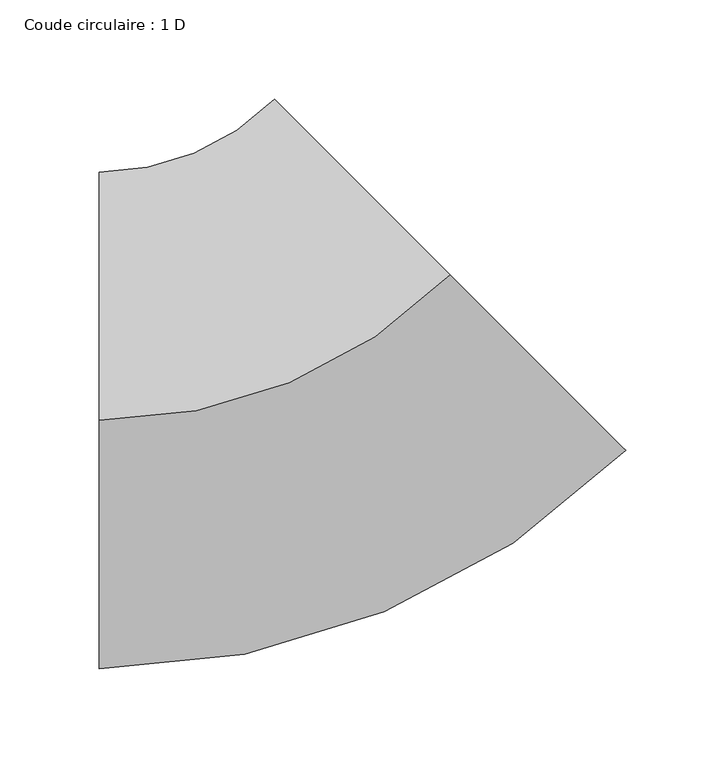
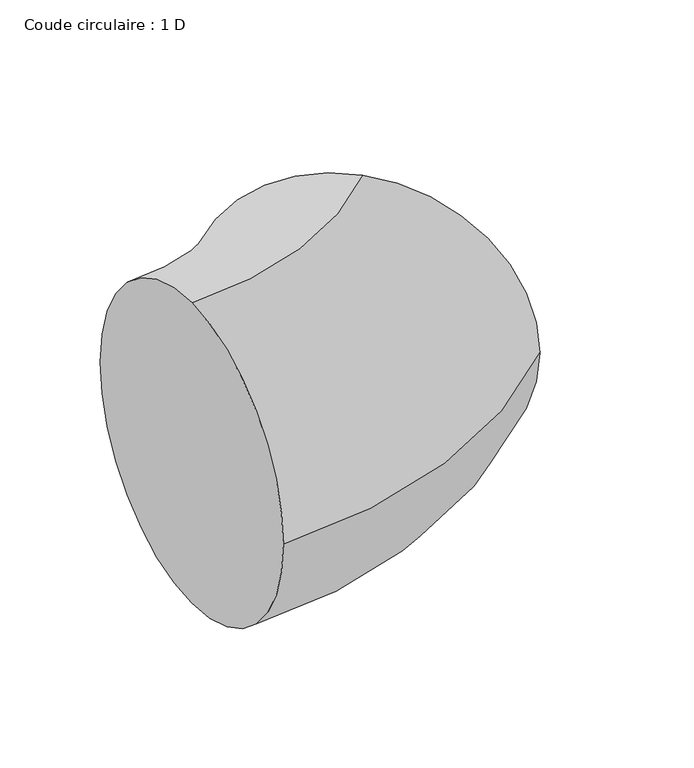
"""IFC4 building model written with IfcOpenShell, lengths in millimetres: duct fitting geometry, Coude circulaire : 1 D."""

from ifc_helpers import new_model, si_unit, point, frame, origin, place, context, project, spatial, circle_curve, ellipse_curve, trimmed, source, transform, mapped, element, save
from ifc_brep_helpers import plane_surface, revolved_surface, advanced_brep


def coude_circulaire_1_d_f93f4f67(model_context):
    return source(origin(), model_context, "Body", "AdvancedBrep", [
        advanced_brep(
        [(-103.5533835, 0.0, 125.0), (-103.5533835, 125.0, 0.0), (-103.5533835, 0.0, -125.0), (-103.5533835, -125.0, 0.0), (73.2233032, 73.2232961, 125.0), (161.6116466, -15.1650559, 0.0), (73.2233032, 73.2232961, -125.0), (-15.1650401, 161.611648, 0.0)],
        [
            (0, 1, circle_curve(frame((-103.5533835, 0.0, 0.0), z_axis=(-1.0, 0.0, 0.0), x_axis=(0.0, 1.0, 0.0)), 125.0)),
            (1, 2, circle_curve(frame((-103.5533835, 0.0, 0.0), z_axis=(-1.0, 0.0, 0.0), x_axis=(0.0, 1.0, 0.0)), 125.0)),
            (2, 3, circle_curve(frame((-103.5533835, 0.0, 0.0), z_axis=(-1.0, 0.0, 0.0), x_axis=(0.0, 1.0, 0.0)), 125.0)),
            (3, 0, circle_curve(frame((-103.5533835, 0.0, 0.0), z_axis=(-1.0, 0.0, 0.0), x_axis=(0.0, 1.0, 0.0)), 125.0)),
            (4, 5, circle_curve(frame((73.2233032, 73.2232961, 0.0), z_axis=(0.7071068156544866, 0.7071067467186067, 0.0), x_axis=(-0.7071067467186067, 0.7071068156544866, 0.0)), 125.0)),
            (5, 6, circle_curve(frame((73.2233032, 73.2232961, 0.0), z_axis=(0.7071068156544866, 0.7071067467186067, 0.0), x_axis=(-0.7071067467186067, 0.7071068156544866, 0.0)), 125.0)),
            (6, 7, circle_curve(frame((73.2233032, 73.2232961, 0.0), z_axis=(0.7071068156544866, 0.7071067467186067, 0.0), x_axis=(-0.7071067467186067, 0.7071068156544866, 0.0)), 125.0)),
            (7, 4, circle_curve(frame((73.2233032, 73.2232961, 0.0), z_axis=(0.7071068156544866, 0.7071067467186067, 0.0), x_axis=(-0.7071067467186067, 0.7071068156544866, 0.0)), 125.0)),
            (7, 1, circle_curve(frame((-103.5533835, 250.0, 0.0), z_axis=(0.0, 0.0, -1.0), x_axis=(0.0, -1.0, 0.0)), 125.0)),
            (0, 4, circle_curve(frame((-103.5533835, 250.0, 125.0), z_axis=(0.0, 0.0, 1.0), x_axis=(0.0, -1.0, 0.0)), 250.0)),
            (6, 2, circle_curve(frame((-103.5533835, 250.0, -125.0), z_axis=(0.0, 0.0, -1.0), x_axis=(0.0, -1.0, 0.0)), 250.0)),
            (5, 3, circle_curve(frame((-103.5533835, 250.0, 0.0), z_axis=(0.0, 0.0, -1.0), x_axis=(0.0, -1.0, 0.0)), 375.0)),
        ],
        [
            plane_surface(frame((-103.5533835, 0.0, 0.0), z_axis=(-1.0, 0.0, 0.0), x_axis=(0.0, 0.0, 1.0))),
            plane_surface(frame((73.2233032, 73.2232961, 0.0), z_axis=(0.7071068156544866, 0.7071067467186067, 0.0), x_axis=(0.0, 0.0, 1.0))),
            revolved_surface(trimmed(ellipse_curve(frame((-103.5533835, 0.0, 0.0), z_axis=(-1.0, 0.0, 0.0), x_axis=(0.0, 1.0, 0.0)), 125.0, 125.0), [point((-103.5533835, 0.0, 125.0))], [point((-103.5533835, 125.0, 0.0))], True, "CARTESIAN"), (-103.5533835, 250.0, 0.0), (0.0, 0.0, 1.0)),
            revolved_surface(trimmed(ellipse_curve(frame((-103.5533835, 0.0, 0.0), z_axis=(-1.0, 0.0, 0.0), x_axis=(0.0, 1.0, 0.0)), 125.0, 125.0), [point((-103.5533835, 125.0, 0.0))], [point((-103.5533835, 0.0, -125.0))], True, "CARTESIAN"), (-103.5533835, 250.0, 0.0), (0.0, 0.0, 1.0)),
            revolved_surface(trimmed(ellipse_curve(frame((-103.5533835, 0.0, 0.0), z_axis=(-1.0, 0.0, 0.0), x_axis=(0.0, 1.0, 0.0)), 125.0, 125.0), [point((-103.5533835, 0.0, -125.0))], [point((-103.5533835, -125.0, 0.0))], True, "CARTESIAN"), (-103.5533835, 250.0, 0.0), (0.0, 0.0, 1.0)),
            revolved_surface(trimmed(ellipse_curve(frame((-103.5533835, 0.0, 0.0), z_axis=(-1.0, 0.0, 0.0), x_axis=(0.0, 1.0, 0.0)), 125.0, 125.0), [point((-103.5533835, -125.0, 0.0))], [point((-103.5533835, 0.0, 125.0))], True, "CARTESIAN"), (-103.5533835, 250.0, 0.0), (0.0, 0.0, 1.0)),
        ],
        [
            (0, [[1, 2, 3, 4]]),
            (1, [[5, 6, 7, 8]]),
            (2, [[9, -1, 10, -8]]),
            (3, [[11, -2, -9, -7]]),
            (4, [[12, -3, -11, -6]]),
            (5, [[-10, -4, -12, -5]]),
        ],
    ),
    ])


if __name__ == "__main__":
    model = new_model("IFC4")
    model_context = context("Model", 3, world=origin())
    ifc_project = project(units=[si_unit("LENGTHUNIT", "METRE", prefix="MILLI")], contexts=[model_context])
    site = spatial("IfcSite", under=ifc_project)
    building = spatial("IfcBuilding", under=site)
    placement = place(None, origin())
    coude_circulaire_1_d_shape = coude_circulaire_1_d_f93f4f67(model_context)
    element("IfcDuctFitting", 1, ObjectType="Coude circulaire : 1 D", at=placement, inside=building, context=model_context, shape_type="MappedRepresentation", body=[
        mapped(coude_circulaire_1_d_shape, transform((0.0, 0.0, 0.0), x_axis=(1.0, 0.0, 0.0), y_axis=(0.0, 1.0, 0.0), z_axis=(0.0, 0.0, 1.0))),
    ])
    save(model, "model.ifc")
